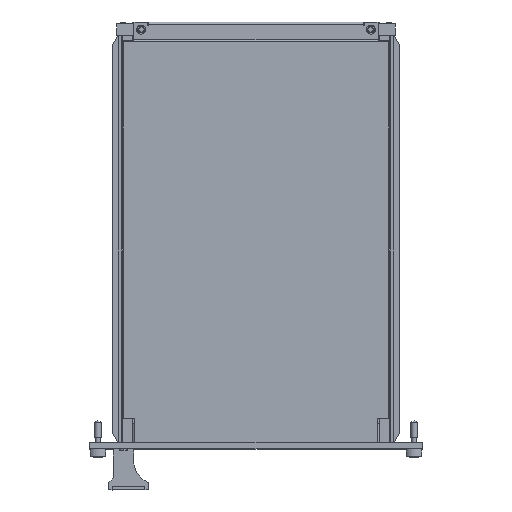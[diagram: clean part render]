
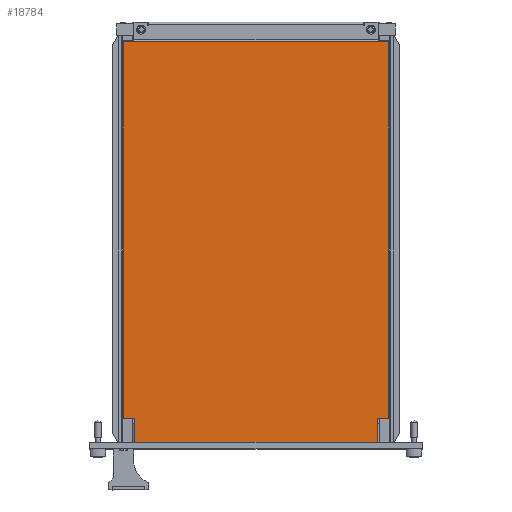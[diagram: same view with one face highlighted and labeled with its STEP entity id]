
A CAD part, top view. The second image highlights one B-rep face of the part: STEP entity #18784.
In plain terms, the highlighted planar face has unit normal (0, 0, 1) as drawn and (-1, 0, 0) by its records, which use the part's own axes.
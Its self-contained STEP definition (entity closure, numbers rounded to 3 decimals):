
#48 = LINE ( 'NONE', #5862, #29752 ) ;
#142 = CARTESIAN_POINT ( 'NONE',  ( 47.8, 72., 3.69 ) ) ;
#726 = FACE_OUTER_BOUND ( 'NONE', #20651, .T. ) ;
#911 = DIRECTION ( 'NONE',  ( 0., 0., 1. ) ) ;
#1691 = VERTEX_POINT ( 'NONE', #17512 ) ;
#3015 = CARTESIAN_POINT ( 'NONE',  ( 47.8, 72., 3.69 ) ) ;
#3176 = VECTOR ( 'NONE', #911, 1000. ) ;
#3345 = VERTEX_POINT ( 'NONE', #20253 ) ;
#3447 = VECTOR ( 'NONE', #26183, 1000. ) ;
#3466 = DIRECTION ( 'NONE',  ( 0., -1., 0. ) ) ;
#3793 = CARTESIAN_POINT ( 'NONE',  ( 47.8, 0., -0.81 ) ) ;
#4132 = DIRECTION ( 'NONE',  ( 0., 0., -1. ) ) ;
#4383 = CARTESIAN_POINT ( 'NONE',  ( 47.8, 72., -99.31 ) ) ;
#4414 = VECTOR ( 'NONE', #3466, 1000. ) ;
#5270 = LINE ( 'NONE', #12056, #6057 ) ;
#5542 = EDGE_CURVE ( 'NONE', #22510, #30921, #27212, .T. ) ;
#5862 = CARTESIAN_POINT ( 'NONE',  ( 47.8, 72., -97.81 ) ) ;
#5879 = LINE ( 'NONE', #12696, #31667 ) ;
#6057 = VECTOR ( 'NONE', #12176, 1000. ) ;
#6433 = CARTESIAN_POINT ( 'NONE',  ( 47.8, 0., -47.81 ) ) ;
#7204 = EDGE_CURVE ( 'NONE', #1691, #30005, #5270, .T. ) ;
#7561 = LINE ( 'NONE', #25932, #7929 ) ;
#7809 = DIRECTION ( 'NONE',  ( 0., -1., 0. ) ) ;
#7929 = VECTOR ( 'NONE', #13378, 1000. ) ;
#9917 = VERTEX_POINT ( 'NONE', #3015 ) ;
#9975 = ORIENTED_EDGE ( 'NONE', *, *, #5542, .T. ) ;
#11391 = EDGE_CURVE ( 'NONE', #24488, #20770, #27689, .T. ) ;
#11434 = PLANE ( 'NONE',  #28458 ) ;
#11498 = EDGE_CURVE ( 'NONE', #30637, #12467, #14142, .T. ) ;
#11650 = DIRECTION ( 'NONE',  ( 1., 0., 0. ) ) ;
#12056 = CARTESIAN_POINT ( 'NONE',  ( 47.8, 81.5, -97.81 ) ) ;
#12176 = DIRECTION ( 'NONE',  ( 0., 0., -1. ) ) ;
#12393 = CARTESIAN_POINT ( 'NONE',  ( 47.8, 74., -0.81 ) ) ;
#12467 = VERTEX_POINT ( 'NONE', #25445 ) ;
#12671 = LINE ( 'NONE', #26169, #3176 ) ;
#12696 = CARTESIAN_POINT ( 'NONE',  ( 47.8, 72., 3.69 ) ) ;
#13378 = DIRECTION ( 'NONE',  ( 0., -1., 0. ) ) ;
#13698 = DIRECTION ( 'NONE',  ( 0., 0., -1. ) ) ;
#14142 = LINE ( 'NONE', #20866, #3447 ) ;
#14567 = ORIENTED_EDGE ( 'NONE', *, *, #32290, .T. ) ;
#15088 = ORIENTED_EDGE ( 'NONE', *, *, #11498, .F. ) ;
#15701 = ORIENTED_EDGE ( 'NONE', *, *, #26921, .T. ) ;
#17021 = EDGE_CURVE ( 'NONE', #24488, #22510, #48, .T. ) ;
#17085 = EDGE_CURVE ( 'NONE', #30921, #3345, #12671, .T. ) ;
#17512 = CARTESIAN_POINT ( 'NONE',  ( 47.8, 81.5, -0.81 ) ) ;
#17549 = ORIENTED_EDGE ( 'NONE', *, *, #11391, .F. ) ;
#18784 = ADVANCED_FACE ( 'NONE', ( #726 ), #11434, .F. ) ;
#19939 = CARTESIAN_POINT ( 'NONE',  ( 47.8, 74., -94.81 ) ) ;
#20253 = CARTESIAN_POINT ( 'NONE',  ( 47.8, -73.795, 3.69 ) ) ;
#20651 = EDGE_LOOP ( 'NONE', ( #32228, #28007, #32060, #17549, #25064, #9975, #26645, #15701, #14567, #15088 ) ) ;
#20655 = CARTESIAN_POINT ( 'NONE',  ( 47.8, 72., -94.81 ) ) ;
#20770 = VERTEX_POINT ( 'NONE', #19939 ) ;
#20866 = CARTESIAN_POINT ( 'NONE',  ( 47.8, 72., -0.81 ) ) ;
#22230 = CARTESIAN_POINT ( 'NONE',  ( 47.8, 72., -94.81 ) ) ;
#22262 = LINE ( 'NONE', #3793, #4414 ) ;
#22510 = VERTEX_POINT ( 'NONE', #4383 ) ;
#23009 = CARTESIAN_POINT ( 'NONE',  ( 47.8, 72., -99.31 ) ) ;
#24488 = VERTEX_POINT ( 'NONE', #22230 ) ;
#24727 = EDGE_CURVE ( 'NONE', #1691, #30637, #22262, .T. ) ;
#24815 = VECTOR ( 'NONE', #7809, 1000. ) ;
#25064 = ORIENTED_EDGE ( 'NONE', *, *, #17021, .T. ) ;
#25242 = EDGE_CURVE ( 'NONE', #30005, #20770, #7561, .T. ) ;
#25418 = DIRECTION ( 'NONE',  ( 0., 1., 0. ) ) ;
#25445 = CARTESIAN_POINT ( 'NONE',  ( 47.8, 72., -0.81 ) ) ;
#25588 = DIRECTION ( 'NONE',  ( 0., 0., -1. ) ) ;
#25620 = LINE ( 'NONE', #142, #32806 ) ;
#25932 = CARTESIAN_POINT ( 'NONE',  ( 47.8, 0., -94.81 ) ) ;
#26169 = CARTESIAN_POINT ( 'NONE',  ( 47.8, -73.795, -47.81 ) ) ;
#26183 = DIRECTION ( 'NONE',  ( 0., -1., 0. ) ) ;
#26645 = ORIENTED_EDGE ( 'NONE', *, *, #17085, .T. ) ;
#26921 = EDGE_CURVE ( 'NONE', #3345, #9917, #5879, .T. ) ;
#27121 = CARTESIAN_POINT ( 'NONE',  ( 47.8, -73.795, -99.31 ) ) ;
#27212 = LINE ( 'NONE', #23009, #24815 ) ;
#27511 = CARTESIAN_POINT ( 'NONE',  ( 47.8, 81.5, -94.81 ) ) ;
#27689 = LINE ( 'NONE', #20655, #29254 ) ;
#28007 = ORIENTED_EDGE ( 'NONE', *, *, #7204, .T. ) ;
#28458 = AXIS2_PLACEMENT_3D ( 'NONE', #6433, #11650, #4132 ) ;
#29254 = VECTOR ( 'NONE', #25418, 1000. ) ;
#29752 = VECTOR ( 'NONE', #13698, 1000. ) ;
#30005 = VERTEX_POINT ( 'NONE', #27511 ) ;
#30564 = DIRECTION ( 'NONE',  ( 0., 1., 0. ) ) ;
#30637 = VERTEX_POINT ( 'NONE', #12393 ) ;
#30921 = VERTEX_POINT ( 'NONE', #27121 ) ;
#31667 = VECTOR ( 'NONE', #30564, 1000. ) ;
#32060 = ORIENTED_EDGE ( 'NONE', *, *, #25242, .T. ) ;
#32228 = ORIENTED_EDGE ( 'NONE', *, *, #24727, .F. ) ;
#32290 = EDGE_CURVE ( 'NONE', #9917, #12467, #25620, .T. ) ;
#32806 = VECTOR ( 'NONE', #25588, 1000. ) ;
